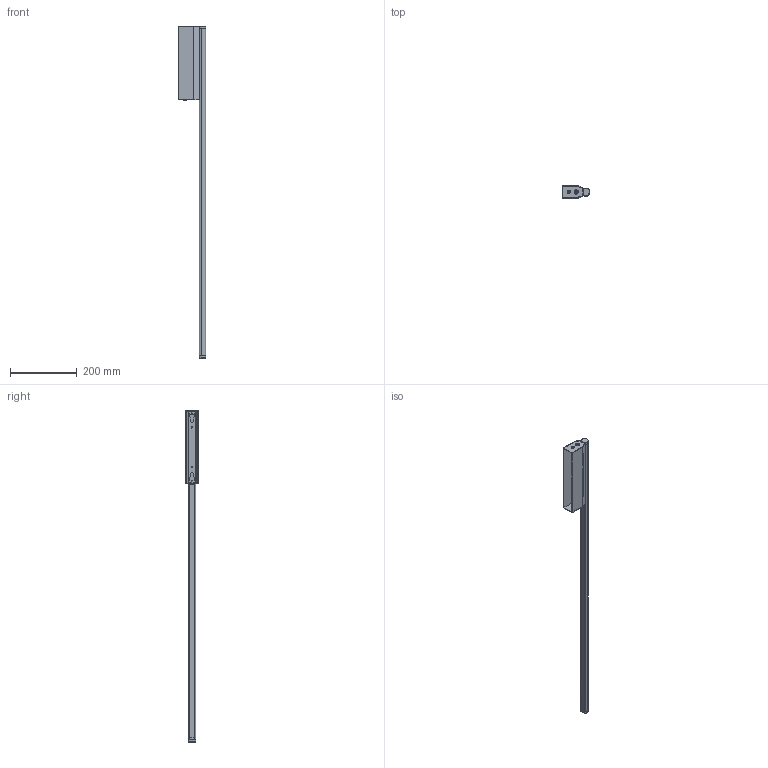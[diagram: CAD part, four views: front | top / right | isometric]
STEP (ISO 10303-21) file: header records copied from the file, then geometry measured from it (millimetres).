
FILE_DESCRIPTION(/* description */ (''),/* implementation_level */ '2;1');
FILE_NAME(/* name */ 'A110__~2',/* time_stamp */ '2024-07-02T10:53:35+02:00',/* author */ (''),/* organization */ (''),/* preprocessor_version */ 'ST-DEVELOPER v16.5',/* originating_system */ '',/* authorisation */ '');
FILE_SCHEMA (('AUTOMOTIVE_DESIGN'));
Length unit declared in the file: millimetre
Products named in the file (1): Document
Bounding box: 82.76 x 37.02 x 996.8 mm (x, y, z)
Volume: 325193.4 mm3; surface area: 204251.8 mm2
Topology: 5 solids, 8 shells, 290 faces, 729 edges, 448 vertices
Faces by surface type: bspline 174, plane 116
Entity records: 10707 total; most frequent: CARTESIAN_POINT 6297, ORIENTED_EDGE 1426, EDGE_CURVE 721, B_SPLINE_CURVE_WITH_KNOTS 451, VERTEX_POINT 448, EDGE_LOOP 311, ADVANCED_FACE 290, FACE_OUTER_BOUND 290
